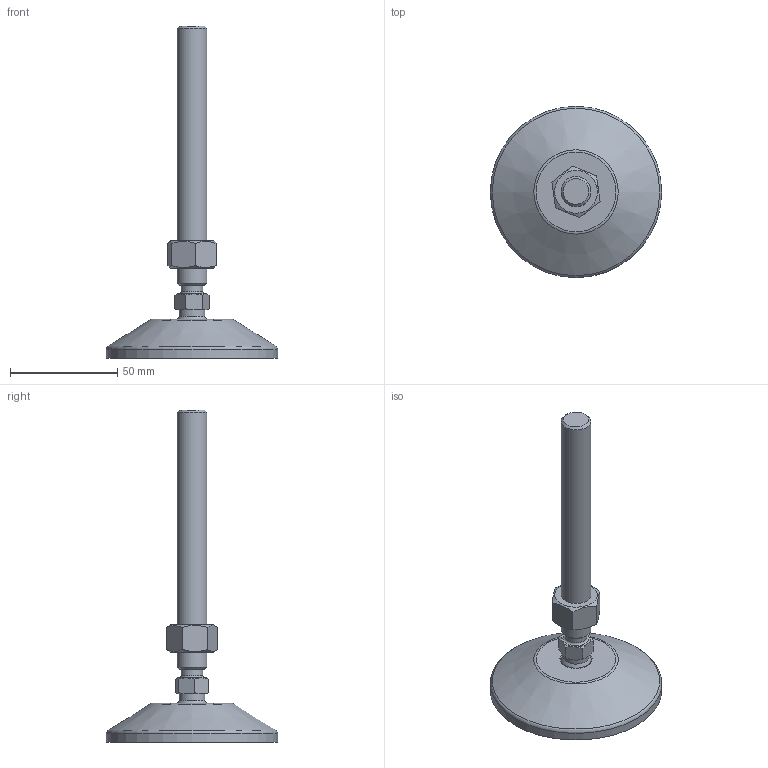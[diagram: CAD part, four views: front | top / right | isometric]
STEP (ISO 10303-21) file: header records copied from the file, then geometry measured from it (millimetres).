
FILE_DESCRIPTION(('STEP AP203'), '1');
FILE_NAME('栖闉罻', '', ('UNSPECIFIED'), ('UNSPECIFIED'), 'C3D Converter', 'C3D Toolkit', '');
FILE_SCHEMA(('CONFIG_CONTROL_DESIGN'));
Length unit declared in the file: millimetre
Products named in the file (4): A00020.114125; A00015.1080
Assembly tree (3 placements, depth 3):
  (unnamed)
    A00020.114125
      (unnamed)
    A00015.1080
Bounding box: 80 x 80 x 154.9 mm (x, y, z)
Volume: 61241.1 mm3; surface area: 25139.6 mm2
Topology: 3 solids, 3 shells, 191 faces, 476 edges, 313 vertices
Faces by surface type: plane 96, cylinder 58, cone 21, torus 14, sphere 2
Full cylindrical faces by diameter (mm): 4 x8, 10.2 x1, 11.835 x1, 12 x1, 14 x1, 14.3 x1, 15 x2, 15.5 x1, 69.3 x1, 80 x1
Entity records: 9645 total; most frequent: CARTESIAN_POINT 3455, DIRECTION 942, ORIENTED_EDGE 880, EDGE_CURVE 440, AXIS2_PLACEMENT_3D 377, VERTEX_POINT 312, EDGE_LOOP 250, FACE_BOUND 207
